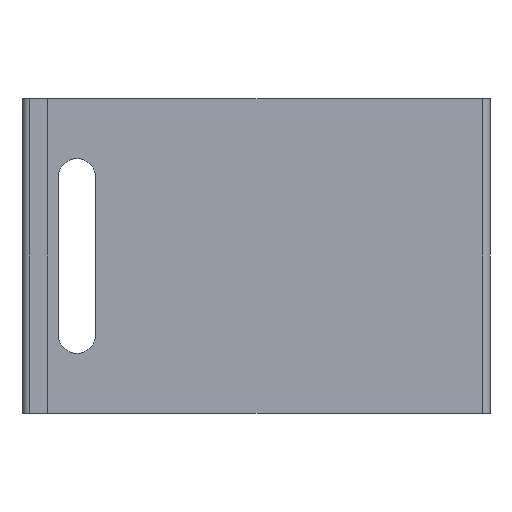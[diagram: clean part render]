
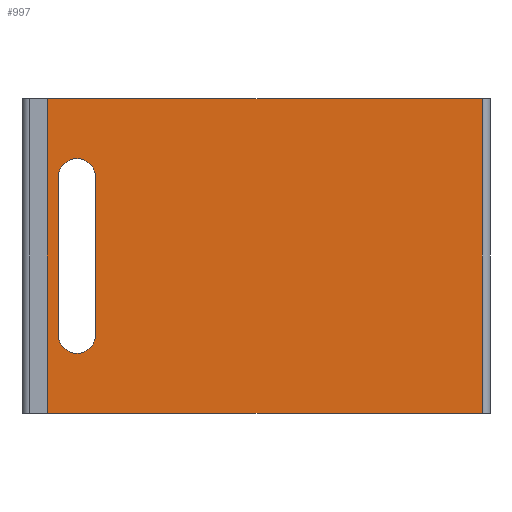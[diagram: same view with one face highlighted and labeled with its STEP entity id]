
A CAD part, front view. The second image highlights one B-rep face of the part: STEP entity #997.
In plain terms, the highlighted planar face has unit normal (0, -1, 0).
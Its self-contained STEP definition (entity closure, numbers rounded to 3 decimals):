
#22 = VERTEX_POINT ( 'NONE', #329 ) ;
#88 = VERTEX_POINT ( 'NONE', #454 ) ;
#89 = VERTEX_POINT ( 'NONE', #455 ) ;
#91 = EDGE_CURVE ( 'NONE', #89, #88, #453, .T. ) ;
#172 = EDGE_CURVE ( 'NONE', #184, #238, #552, .T. ) ;
#184 = VERTEX_POINT ( 'NONE', #547 ) ;
#196 = VERTEX_POINT ( 'NONE', #587 ) ;
#209 = EDGE_CURVE ( 'NONE', #22, #196, #608, .T. ) ;
#238 = VERTEX_POINT ( 'NONE', #694 ) ;
#329 = CARTESIAN_POINT ( 'NONE',  ( -5.5, 20., -50. ) ) ;
#446 = DIRECTION ( 'NONE',  ( 0., 0., -1. ) ) ;
#447 = DIRECTION ( 'NONE',  ( 0., -1., 0. ) ) ;
#448 = CARTESIAN_POINT ( 'NONE',  ( 9.5, 20., -25. ) ) ;
#449 = AXIS2_PLACEMENT_3D ( 'NONE', #448, #447, #446 ) ;
#453 = CIRCLE ( 'NONE', #449, 6. ) ;
#454 = CARTESIAN_POINT ( 'NONE',  ( 15.5, 20., -25. ) ) ;
#455 = CARTESIAN_POINT ( 'NONE',  ( 9.5, 20., -31. ) ) ;
#547 = CARTESIAN_POINT ( 'NONE',  ( -5.5, 20., 50. ) ) ;
#550 = DIRECTION ( 'NONE',  ( 1., 0., 0. ) ) ;
#551 = VECTOR ( 'NONE', #550, 1000. ) ;
#552 = LINE ( 'NONE', #559, #551 ) ;
#559 = CARTESIAN_POINT ( 'NONE',  ( -8., 20., 50. ) ) ;
#587 = CARTESIAN_POINT ( 'NONE',  ( 138.5, 20., -50. ) ) ;
#606 = DIRECTION ( 'NONE',  ( 1., 0., 0. ) ) ;
#607 = VECTOR ( 'NONE', #606, 1000. ) ;
#608 = LINE ( 'NONE', #615, #607 ) ;
#615 = CARTESIAN_POINT ( 'NONE',  ( -8., 20., -50. ) ) ;
#694 = CARTESIAN_POINT ( 'NONE',  ( 138.5, 20., 50. ) ) ;
#732 = DIRECTION ( 'NONE',  ( 0., 0., -1. ) ) ;
#733 = VECTOR ( 'NONE', #732, 1000. ) ;
#734 = CARTESIAN_POINT ( 'NONE',  ( 3.5, 20., 25. ) ) ;
#735 = LINE ( 'NONE', #734, #733 ) ;
#757 = LINE ( 'NONE', #809, #799 ) ;
#781 = CARTESIAN_POINT ( 'NONE',  ( 3.5, 20., -25. ) ) ;
#785 = CARTESIAN_POINT ( 'NONE',  ( 15.5, 20., 25. ) ) ;
#790 = DIRECTION ( 'NONE',  ( 0., 0., -1. ) ) ;
#791 = DIRECTION ( 'NONE',  ( 0., -1., 0. ) ) ;
#792 = CARTESIAN_POINT ( 'NONE',  ( 9.5, 20., -25. ) ) ;
#793 = AXIS2_PLACEMENT_3D ( 'NONE', #792, #791, #790 ) ;
#794 = AXIS2_PLACEMENT_3D ( 'NONE', #835, #834, #833 ) ;
#795 = CIRCLE ( 'NONE', #794, 6. ) ;
#796 = DIRECTION ( 'NONE',  ( 0., 0., -1. ) ) ;
#797 = CARTESIAN_POINT ( 'NONE',  ( 3.5, 20., 25. ) ) ;
#799 = VECTOR ( 'NONE', #796, 1000. ) ;
#805 = CIRCLE ( 'NONE', #793, 6. ) ;
#809 = CARTESIAN_POINT ( 'NONE',  ( -5.5, 20., 50. ) ) ;
#814 = DIRECTION ( 'NONE',  ( 0., 0., 1. ) ) ;
#815 = DIRECTION ( 'NONE',  ( 0., 1., 0. ) ) ;
#816 = AXIS2_PLACEMENT_3D ( 'NONE', #821, #815, #814 ) ;
#819 = FACE_OUTER_BOUND ( 'NONE', #980, .T. ) ;
#820 = FACE_BOUND ( 'NONE', #942, .T. ) ;
#821 = CARTESIAN_POINT ( 'NONE',  ( -8., 20., 50. ) ) ;
#822 = PLANE ( 'NONE',  #816 ) ;
#829 = DIRECTION ( 'NONE',  ( 0., 0., 1. ) ) ;
#830 = VECTOR ( 'NONE', #829, 1000. ) ;
#831 = CARTESIAN_POINT ( 'NONE',  ( 15.5, 20., 25. ) ) ;
#832 = LINE ( 'NONE', #831, #830 ) ;
#833 = DIRECTION ( 'NONE',  ( 0., 0., -1. ) ) ;
#834 = DIRECTION ( 'NONE',  ( 0., -1., 0. ) ) ;
#835 = CARTESIAN_POINT ( 'NONE',  ( 9.5, 20., 25. ) ) ;
#837 = DIRECTION ( 'NONE',  ( 0., 0., -1. ) ) ;
#838 = VECTOR ( 'NONE', #837, 1000. ) ;
#839 = CARTESIAN_POINT ( 'NONE',  ( 138.5, 20., 50. ) ) ;
#840 = LINE ( 'NONE', #839, #838 ) ;
#938 = EDGE_CURVE ( 'NONE', #967, #945, #735, .T. ) ;
#942 = EDGE_LOOP ( 'NONE', ( #985, #979, #984, #988, #978 ) ) ;
#945 = VERTEX_POINT ( 'NONE', #781 ) ;
#966 = EDGE_CURVE ( 'NONE', #184, #22, #757, .T. ) ;
#967 = VERTEX_POINT ( 'NONE', #797 ) ;
#970 = EDGE_CURVE ( 'NONE', #945, #89, #805, .T. ) ;
#973 = ORIENTED_EDGE ( 'NONE', *, *, #209, .T. ) ;
#977 = EDGE_CURVE ( 'NONE', #238, #196, #840, .T. ) ;
#978 = ORIENTED_EDGE ( 'NONE', *, *, #970, .F. ) ;
#979 = ORIENTED_EDGE ( 'NONE', *, *, #983, .F. ) ;
#980 = EDGE_LOOP ( 'NONE', ( #973, #999, #982, #996 ) ) ;
#981 = VERTEX_POINT ( 'NONE', #785 ) ;
#982 = ORIENTED_EDGE ( 'NONE', *, *, #172, .F. ) ;
#983 = EDGE_CURVE ( 'NONE', #981, #967, #795, .T. ) ;
#984 = ORIENTED_EDGE ( 'NONE', *, *, #987, .F. ) ;
#985 = ORIENTED_EDGE ( 'NONE', *, *, #938, .F. ) ;
#987 = EDGE_CURVE ( 'NONE', #88, #981, #832, .T. ) ;
#988 = ORIENTED_EDGE ( 'NONE', *, *, #91, .F. ) ;
#996 = ORIENTED_EDGE ( 'NONE', *, *, #966, .T. ) ;
#997 = ADVANCED_FACE ( 'NONE', ( #820, #819 ), #822, .F. ) ;
#999 = ORIENTED_EDGE ( 'NONE', *, *, #977, .F. ) ;
